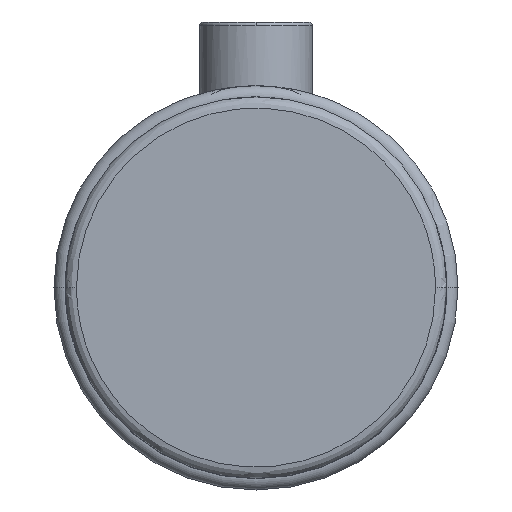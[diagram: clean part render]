
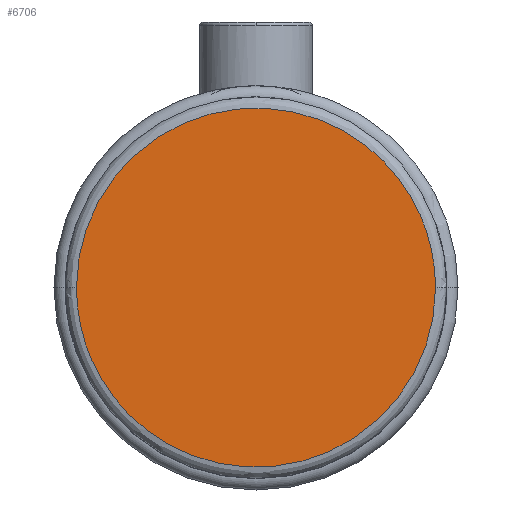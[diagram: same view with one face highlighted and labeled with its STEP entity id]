
A CAD part, top view. The second image highlights one B-rep face of the part: STEP entity #6706.
In plain terms, the highlighted planar face has unit normal (0, 0, 1).
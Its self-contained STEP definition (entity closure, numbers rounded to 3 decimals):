
#423 = CARTESIAN_POINT ( 'NONE',  ( -47.8, 0., 50. ) ) ;
#611 = CARTESIAN_POINT ( 'NONE',  ( 47.8, -95.6, 50. ) ) ;
#1786 = VERTEX_POINT ( 'NONE', #6615 ) ;
#2683 = CARTESIAN_POINT ( 'NONE',  ( -47.8, 0., 50. ) ) ;
#3297 = FACE_OUTER_BOUND ( 'NONE', #5566, .T. ) ;
#5100 = EDGE_CURVE ( 'NONE', #6666, #1786, #10518, .T. ) ;
#5162 = PLANE ( 'NONE',  #10859 ) ;
#5308 = CARTESIAN_POINT ( 'NONE',  ( 0., 25.4, 50. ) ) ;
#5525 = CARTESIAN_POINT ( 'NONE',  ( 47.8, 0., 50. ) ) ;
#5566 = EDGE_LOOP ( 'NONE', ( #6355, #11674 ) ) ;
#5874 = EDGE_CURVE ( 'NONE', #1786, #6666, #9592, .T. ) ;
#6355 = ORIENTED_EDGE ( 'NONE', *, *, #5874, .F. ) ;
#6468 = CARTESIAN_POINT ( 'NONE',  ( -47.8, 95.6, 50. ) ) ;
#6615 = CARTESIAN_POINT ( 'NONE',  ( 47.8, 0., 50. ) ) ;
#6666 = VERTEX_POINT ( 'NONE', #10177 ) ;
#6706 = ADVANCED_FACE ( 'NONE', ( #3297 ), #5162, .T. ) ;
#7314 = DIRECTION ( 'NONE',  ( 0., 0., 1. ) ) ;
#7683 = CARTESIAN_POINT ( 'NONE',  ( 47.8, 0., 50. ) ) ;
#8718 = CARTESIAN_POINT ( 'NONE',  ( -47.8, -95.6, 50. ) ) ;
#9592 =( BOUNDED_CURVE ( )  B_SPLINE_CURVE ( 3, ( #7683, #611, #8718, #2683 ),
 .UNSPECIFIED., .F., .F. ) 
 B_SPLINE_CURVE_WITH_KNOTS ( ( 4, 4 ),
 ( 0.25, 0.75 ),
 .UNSPECIFIED. ) 
 CURVE ( )  GEOMETRIC_REPRESENTATION_ITEM ( )  RATIONAL_B_SPLINE_CURVE ( ( 1., 0.333, 0.333, 1. ) ) 
 REPRESENTATION_ITEM ( '' )  );
#10177 = CARTESIAN_POINT ( 'NONE',  ( -47.8, 0., 50. ) ) ;
#10518 =( BOUNDED_CURVE ( )  B_SPLINE_CURVE ( 3, ( #423, #6468, #11533, #5525 ),
 .UNSPECIFIED., .F., .F. ) 
 B_SPLINE_CURVE_WITH_KNOTS ( ( 4, 4 ),
 ( 0.75, 1.25 ),
 .UNSPECIFIED. ) 
 CURVE ( )  GEOMETRIC_REPRESENTATION_ITEM ( )  RATIONAL_B_SPLINE_CURVE ( ( 1., 0.333, 0.333, 1. ) ) 
 REPRESENTATION_ITEM ( '' )  );
#10859 = AXIS2_PLACEMENT_3D ( 'NONE', #5308, #7314, #12195 ) ;
#11533 = CARTESIAN_POINT ( 'NONE',  ( 47.8, 95.6, 50. ) ) ;
#11674 = ORIENTED_EDGE ( 'NONE', *, *, #5100, .F. ) ;
#12195 = DIRECTION ( 'NONE',  ( 0., -1., 0. ) ) ;
